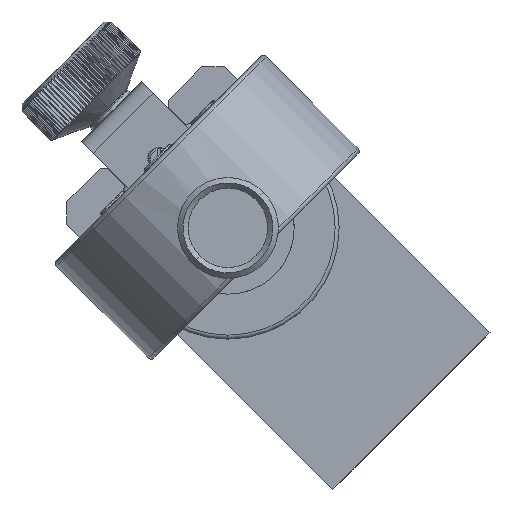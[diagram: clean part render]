
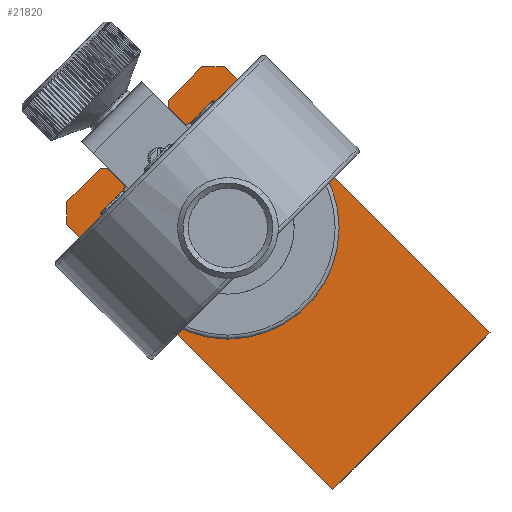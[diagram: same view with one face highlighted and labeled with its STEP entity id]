
A CAD part, front view. The second image highlights one B-rep face of the part: STEP entity #21820.
In plain terms, the highlighted planar face has unit normal (0, -1, 0).
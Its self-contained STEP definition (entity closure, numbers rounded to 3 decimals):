
#20993=CARTESIAN_POINT('Vertex',(641.2,406.106,369.327)) ;
#20996=CARTESIAN_POINT('Line Origine',(626.351,406.106,354.478)) ;
#21000=CARTESIAN_POINT('Vertex',(611.502,406.106,339.628)) ;
#21191=CARTESIAN_POINT('Vertex',(561.297,406.106,389.833)) ;
#21194=CARTESIAN_POINT('Line Origine',(586.399,406.106,364.731)) ;
#21215=CARTESIAN_POINT('Vertex',(569.005,406.106,400.369)) ;
#21218=CARTESIAN_POINT('Line Origine',(571.479,406.106,397.894)) ;
#21222=CARTESIAN_POINT('Vertex',(573.954,406.106,395.419)) ;
#21382=CARTESIAN_POINT('Vertex',(600.917,406.106,394.16)) ;
#21385=CARTESIAN_POINT('Axis2P3D Location',(591.703,406.106,389.126)) ;
#21389=CARTESIAN_POINT('Vertex',(582.488,406.106,384.092)) ;
#21440=CARTESIAN_POINT('Axis2P3D Location',(591.703,406.106,389.126)) ;
#21555=CARTESIAN_POINT('Line Origine',(568.297,406.106,400.369)) ;
#21559=CARTESIAN_POINT('Vertex',(567.59,406.106,400.369)) ;
#21579=CARTESIAN_POINT('Line Origine',(579.682,406.106,401.147)) ;
#21583=CARTESIAN_POINT('Vertex',(585.409,406.106,406.874)) ;
#21611=CARTESIAN_POINT('Vertex',(580.46,406.106,411.824)) ;
#21614=CARTESIAN_POINT('Line Origine',(582.935,406.106,409.349)) ;
#21631=CARTESIAN_POINT('Line Origine',(580.46,406.106,412.531)) ;
#21635=CARTESIAN_POINT('Vertex',(580.46,406.106,413.238)) ;
#21655=CARTESIAN_POINT('Line Origine',(564.444,406.106,397.222)) ;
#21659=CARTESIAN_POINT('Vertex',(586.753,406.106,419.531)) ;
#21679=CARTESIAN_POINT('Line Origine',(588.874,406.106,419.531)) ;
#21683=CARTESIAN_POINT('Vertex',(590.996,406.106,419.531)) ;
#21703=CARTESIAN_POINT('Line Origine',(561.297,406.106,391.954)) ;
#21707=CARTESIAN_POINT('Vertex',(561.297,406.106,394.076)) ;
#21722=CARTESIAN_POINT('Line Origine',(564.444,406.106,397.222)) ;
#21792=CARTESIAN_POINT('Axis2P3D Location',(588.874,406.106,391.954)) ;
#21797=CARTESIAN_POINT('Line Origine',(616.098,406.106,394.429)) ;
#20997=DIRECTION('Vector Direction',(-0.707,0.,-0.707)) ;
#21195=DIRECTION('Vector Direction',(0.707,0.,-0.707)) ;
#21219=DIRECTION('Vector Direction',(0.707,0.,-0.707)) ;
#21386=DIRECTION('Axis2P3D Direction',(0.,-1.,0.)) ;
#21441=DIRECTION('Axis2P3D Direction',(0.,-1.,0.)) ;
#21556=DIRECTION('Vector Direction',(1.,0.,0.)) ;
#21580=DIRECTION('Vector Direction',(-0.707,0.,-0.707)) ;
#21615=DIRECTION('Vector Direction',(0.707,0.,-0.707)) ;
#21632=DIRECTION('Vector Direction',(0.,0.,-1.)) ;
#21656=DIRECTION('Vector Direction',(0.707,0.,0.707)) ;
#21680=DIRECTION('Vector Direction',(1.,0.,0.)) ;
#21704=DIRECTION('Vector Direction',(0.,0.,1.)) ;
#21723=DIRECTION('Vector Direction',(0.707,0.,0.707)) ;
#21793=DIRECTION('Axis2P3D Direction',(0.,-1.,0.)) ;
#21794=DIRECTION('Axis2P3D XDirection',(-0.707,0.,0.707)) ;
#21798=DIRECTION('Vector Direction',(0.707,0.,-0.707)) ;
#21387=AXIS2_PLACEMENT_3D('Circle Axis2P3D',#21385,#21386,$) ;
#21442=AXIS2_PLACEMENT_3D('Circle Axis2P3D',#21440,#21441,$) ;
#21795=AXIS2_PLACEMENT_3D('Plane Axis2P3D',#21792,#21793,#21794) ;
#21803=ORIENTED_EDGE('',*,*,#21726,.T.) ;
#21804=ORIENTED_EDGE('',*,*,#21709,.F.) ;
#21805=ORIENTED_EDGE('',*,*,#21198,.T.) ;
#21806=ORIENTED_EDGE('',*,*,#21002,.T.) ;
#21807=ORIENTED_EDGE('',*,*,#21801,.F.) ;
#21808=ORIENTED_EDGE('',*,*,#21685,.F.) ;
#21809=ORIENTED_EDGE('',*,*,#21661,.T.) ;
#21810=ORIENTED_EDGE('',*,*,#21637,.F.) ;
#21811=ORIENTED_EDGE('',*,*,#21618,.T.) ;
#21812=ORIENTED_EDGE('',*,*,#21585,.T.) ;
#21813=ORIENTED_EDGE('',*,*,#21224,.F.) ;
#21814=ORIENTED_EDGE('',*,*,#21561,.F.) ;
#21817=ORIENTED_EDGE('',*,*,#21444,.F.) ;
#21818=ORIENTED_EDGE('',*,*,#21391,.F.) ;
#21819=FACE_BOUND('',#21816,.T.) ;
#20998=VECTOR('Line Direction',#20997,1.) ;
#21196=VECTOR('Line Direction',#21195,1.) ;
#21220=VECTOR('Line Direction',#21219,1.) ;
#21557=VECTOR('Line Direction',#21556,1.) ;
#21581=VECTOR('Line Direction',#21580,1.) ;
#21616=VECTOR('Line Direction',#21615,1.) ;
#21633=VECTOR('Line Direction',#21632,1.) ;
#21657=VECTOR('Line Direction',#21656,1.) ;
#21681=VECTOR('Line Direction',#21680,1.) ;
#21705=VECTOR('Line Direction',#21704,1.) ;
#21724=VECTOR('Line Direction',#21723,1.) ;
#21799=VECTOR('Line Direction',#21798,1.) ;
#21820=ADVANCED_FACE('Produkt1.5\\Messuhrhalter_gerade.2\\Hauptk\X2\00F6\X0\rper',(#21815,#21819),#21796,.T.) ;
#21388=CIRCLE('generated circle',#21387,10.5) ;
#21443=CIRCLE('generated circle',#21442,10.5) ;
#21002=EDGE_CURVE('',#21001,#20994,#20999,.F.) ;
#21198=EDGE_CURVE('',#21192,#21001,#21197,.T.) ;
#21224=EDGE_CURVE('',#21216,#21223,#21221,.T.) ;
#21391=EDGE_CURVE('',#21383,#21390,#21388,.T.) ;
#21444=EDGE_CURVE('',#21390,#21383,#21443,.T.) ;
#21561=EDGE_CURVE('',#21560,#21216,#21558,.T.) ;
#21585=EDGE_CURVE('',#21584,#21223,#21582,.T.) ;
#21618=EDGE_CURVE('',#21612,#21584,#21617,.T.) ;
#21637=EDGE_CURVE('',#21612,#21636,#21634,.F.) ;
#21661=EDGE_CURVE('',#21660,#21636,#21658,.F.) ;
#21685=EDGE_CURVE('',#21660,#21684,#21682,.T.) ;
#21709=EDGE_CURVE('',#21192,#21708,#21706,.T.) ;
#21726=EDGE_CURVE('',#21560,#21708,#21725,.F.) ;
#21801=EDGE_CURVE('',#21684,#20994,#21800,.T.) ;
#21802=EDGE_LOOP('',(#21803,#21804,#21805,#21806,#21807,#21808,#21809,#21810,#21811,#21812,#21813,#21814)) ;
#21816=EDGE_LOOP('',(#21817,#21818)) ;
#21815=FACE_OUTER_BOUND('',#21802,.T.) ;
#20999=LINE('Line',#20996,#20998) ;
#21197=LINE('Line',#21194,#21196) ;
#21221=LINE('Line',#21218,#21220) ;
#21558=LINE('Line',#21555,#21557) ;
#21582=LINE('Line',#21579,#21581) ;
#21617=LINE('Line',#21614,#21616) ;
#21634=LINE('Line',#21631,#21633) ;
#21658=LINE('Line',#21655,#21657) ;
#21682=LINE('Line',#21679,#21681) ;
#21706=LINE('Line',#21703,#21705) ;
#21725=LINE('Line',#21722,#21724) ;
#21800=LINE('Line',#21797,#21799) ;
#21796=PLANE('Plane',#21795) ;
#20994=VERTEX_POINT('',#20993) ;
#21001=VERTEX_POINT('',#21000) ;
#21192=VERTEX_POINT('',#21191) ;
#21216=VERTEX_POINT('',#21215) ;
#21223=VERTEX_POINT('',#21222) ;
#21383=VERTEX_POINT('',#21382) ;
#21390=VERTEX_POINT('',#21389) ;
#21560=VERTEX_POINT('',#21559) ;
#21584=VERTEX_POINT('',#21583) ;
#21612=VERTEX_POINT('',#21611) ;
#21636=VERTEX_POINT('',#21635) ;
#21660=VERTEX_POINT('',#21659) ;
#21684=VERTEX_POINT('',#21683) ;
#21708=VERTEX_POINT('',#21707) ;
